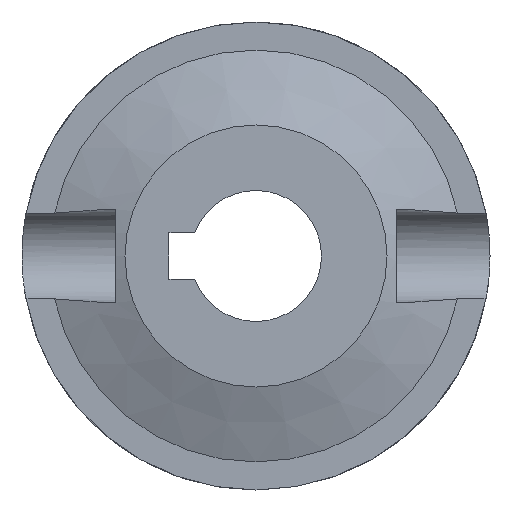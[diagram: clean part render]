
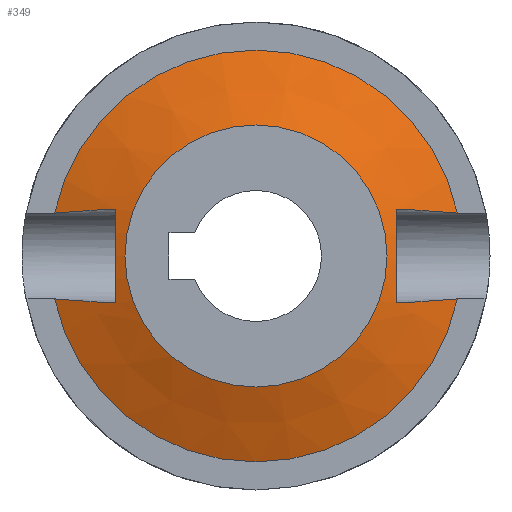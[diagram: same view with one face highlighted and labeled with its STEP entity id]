
A CAD part, front view. The second image highlights one B-rep face of the part: STEP entity #349.
In plain terms, the highlighted conical face has half-angle 69.444 degrees and reference radius 22.8 mm.
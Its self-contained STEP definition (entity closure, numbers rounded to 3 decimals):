
#349 = ADVANCED_FACE( '', ( #793, #794 ), #795, .T. );
#793 = FACE_OUTER_BOUND( '', #1352, .T. );
#794 = FACE_BOUND( '', #1353, .T. );
#795 = CONICAL_SURFACE( '', #1354, 22.8, 1.212 );
#1352 = EDGE_LOOP( '', ( #2136, #2137, #2138, #2139, #2140, #2141, #2142, #2143, #2144, #2145, #2146, #2147 ) );
#1353 = EDGE_LOOP( '', ( #2148 ) );
#1354 = AXIS2_PLACEMENT_3D( '', #2149, #2150, #2151 );
#2136 = ORIENTED_EDGE( '', *, *, #2731, .T. );
#2137 = ORIENTED_EDGE( '', *, *, #2621, .T. );
#2138 = ORIENTED_EDGE( '', *, *, #2732, .T. );
#2139 = ORIENTED_EDGE( '', *, *, #2711, .T. );
#2140 = ORIENTED_EDGE( '', *, *, #2501, .T. );
#2141 = ORIENTED_EDGE( '', *, *, #2537, .T. );
#2142 = ORIENTED_EDGE( '', *, *, #2733, .T. );
#2143 = ORIENTED_EDGE( '', *, *, #2616, .F. );
#2144 = ORIENTED_EDGE( '', *, *, #2718, .T. );
#2145 = ORIENTED_EDGE( '', *, *, #2533, .T. );
#2146 = ORIENTED_EDGE( '', *, *, #2689, .T. );
#2147 = ORIENTED_EDGE( '', *, *, #2714, .T. );
#2148 = ORIENTED_EDGE( '', *, *, #2588, .T. );
#2149 = CARTESIAN_POINT( '', ( 0., 0.3, 0. ) );
#2150 = DIRECTION( '', ( 0., 1., 0. ) );
#2151 = DIRECTION( '', ( -1., 0., 0. ) );
#2501 = EDGE_CURVE( '', #2903, #2901, #2904, .F. );
#2533 = EDGE_CURVE( '', #2952, #2950, #2953, .T. );
#2537 = EDGE_CURVE( '', #2901, #2958, #2960, .T. );
#2588 = EDGE_CURVE( '', #3034, #3034, #3035, .T. );
#2616 = EDGE_CURVE( '', #3075, #3077, #3078, .T. );
#2621 = EDGE_CURVE( '', #3084, #3085, #3086, .T. );
#2689 = EDGE_CURVE( '', #2950, #3184, #3186, .F. );
#2711 = EDGE_CURVE( '', #3212, #2903, #3213, .T. );
#2714 = EDGE_CURVE( '', #3184, #3215, #3217, .T. );
#2718 = EDGE_CURVE( '', #3075, #2952, #3220, .T. );
#2731 = EDGE_CURVE( '', #3215, #3084, #3238, .T. );
#2732 = EDGE_CURVE( '', #3085, #3212, #3239, .T. );
#2733 = EDGE_CURVE( '', #2958, #3077, #3240, .T. );
#2901 = VERTEX_POINT( '', #3716 );
#2903 = VERTEX_POINT( '', #3719 );
#2904 = CIRCLE( '', #3720, 22. );
#2950 = VERTEX_POINT( '', #3803 );
#2952 = VERTEX_POINT( '', #3806 );
#2953 = B_SPLINE_CURVE_WITH_KNOTS( '', 3, ( #3807, #3808, #3809, #3810, #3811, #3812 ), .UNSPECIFIED., .F., .F., ( 4, 2, 4 ), ( 0., 0.003, 0.006 ), .UNSPECIFIED. );
#2958 = VERTEX_POINT( '', #3818 );
#2960 = B_SPLINE_CURVE_WITH_KNOTS( '', 3, ( #3821, #3822, #3823, #3824, #3825, #3826 ), .UNSPECIFIED., .F., .F., ( 4, 2, 4 ), ( 0., 0.003, 0.006 ), .UNSPECIFIED. );
#3034 = VERTEX_POINT( '', #3921 );
#3035 = CIRCLE( '', #3922, 14. );
#3075 = VERTEX_POINT( '', #3969 );
#3077 = VERTEX_POINT( '', #3972 );
#3078 = B_SPLINE_CURVE_WITH_KNOTS( '', 3, ( #3973, #3974, #3975, #3976, #3977, #3978 ), .UNSPECIFIED., .F., .F., ( 4, 2, 4 ), ( -0.005, 0., 0.005 ), .UNSPECIFIED. );
#3084 = VERTEX_POINT( '', #3985 );
#3085 = VERTEX_POINT( '', #3986 );
#3086 = B_SPLINE_CURVE_WITH_KNOTS( '', 3, ( #3987, #3988, #3989, #3990, #3991, #3992 ), .UNSPECIFIED., .F., .F., ( 4, 2, 4 ), ( -0.005, 0., 0.005 ), .UNSPECIFIED. );
#3184 = VERTEX_POINT( '', #4197 );
#3186 = CIRCLE( '', #4200, 22. );
#3212 = VERTEX_POINT( '', #4263 );
#3213 = B_SPLINE_CURVE_WITH_KNOTS( '', 3, ( #4264, #4265, #4266, #4267, #4268, #4269 ), .UNSPECIFIED., .F., .F., ( 4, 2, 4 ), ( 0., 0.003, 0.006 ), .UNSPECIFIED. );
#3215 = VERTEX_POINT( '', #4272 );
#3217 = B_SPLINE_CURVE_WITH_KNOTS( '', 3, ( #4275, #4276, #4277, #4278, #4279, #4280 ), .UNSPECIFIED., .F., .F., ( 4, 2, 4 ), ( 0., 0.003, 0.006 ), .UNSPECIFIED. );
#3220 = B_SPLINE_CURVE_WITH_KNOTS( '', 3, ( #4283, #4284, #4285, #4286 ), .UNSPECIFIED., .F., .F., ( 4, 4 ), ( 0., 0.001 ), .UNSPECIFIED. );
#3238 = B_SPLINE_CURVE_WITH_KNOTS( '', 3, ( #4313, #4314, #4315, #4316 ), .UNSPECIFIED., .F., .F., ( 4, 4 ), ( 0., 0.001 ), .UNSPECIFIED. );
#3239 = B_SPLINE_CURVE_WITH_KNOTS( '', 3, ( #4317, #4318, #4319, #4320 ), .UNSPECIFIED., .F., .F., ( 4, 4 ), ( 0., 0.001 ), .UNSPECIFIED. );
#3240 = B_SPLINE_CURVE_WITH_KNOTS( '', 3, ( #4321, #4322, #4323, #4324 ), .UNSPECIFIED., .F., .F., ( 4, 4 ), ( 0., 0.001 ), .UNSPECIFIED. );
#3716 = CARTESIAN_POINT( '', ( -21.517, 0., 4.583 ) );
#3719 = CARTESIAN_POINT( '', ( 21.517, 0., 4.583 ) );
#3720 = AXIS2_PLACEMENT_3D( '', #4503, #4504, #4505 );
#3803 = CARTESIAN_POINT( '', ( -21.517, 0., -4.583 ) );
#3806 = CARTESIAN_POINT( '', ( -15.899, -2., -5. ) );
#3807 = CARTESIAN_POINT( '', ( -15.899, -2., -5. ) );
#3808 = CARTESIAN_POINT( '', ( -16.839, -1.664, -5. ) );
#3809 = CARTESIAN_POINT( '', ( -17.778, -1.329, -4.966 ) );
#3810 = CARTESIAN_POINT( '', ( -19.651, -0.662, -4.83 ) );
#3811 = CARTESIAN_POINT( '', ( -20.586, -0.331, -4.727 ) );
#3812 = CARTESIAN_POINT( '', ( -21.517, 0., -4.583 ) );
#3818 = CARTESIAN_POINT( '', ( -15.899, -2., 5. ) );
#3821 = CARTESIAN_POINT( '', ( -21.517, 0., 4.583 ) );
#3822 = CARTESIAN_POINT( '', ( -20.586, -0.331, 4.727 ) );
#3823 = CARTESIAN_POINT( '', ( -19.651, -0.662, 4.83 ) );
#3824 = CARTESIAN_POINT( '', ( -17.778, -1.329, 4.966 ) );
#3825 = CARTESIAN_POINT( '', ( -16.839, -1.664, 5. ) );
#3826 = CARTESIAN_POINT( '', ( -15.899, -2., 5. ) );
#3921 = CARTESIAN_POINT( '', ( -14., -3., 0. ) );
#3922 = AXIS2_PLACEMENT_3D( '', #4626, #4627, #4628 );
#3969 = CARTESIAN_POINT( '', ( -15., -2.321, -5. ) );
#3972 = CARTESIAN_POINT( '', ( -15., -2.321, 5. ) );
#3973 = CARTESIAN_POINT( '', ( -15., -2.321, -5. ) );
#3974 = CARTESIAN_POINT( '', ( -15., -2.518, -3.339 ) );
#3975 = CARTESIAN_POINT( '', ( -15., -2.625, -1.673 ) );
#3976 = CARTESIAN_POINT( '', ( -15., -2.625, 1.673 ) );
#3977 = CARTESIAN_POINT( '', ( -15., -2.518, 3.339 ) );
#3978 = CARTESIAN_POINT( '', ( -15., -2.321, 5. ) );
#3985 = CARTESIAN_POINT( '', ( 15., -2.321, -5. ) );
#3986 = CARTESIAN_POINT( '', ( 15., -2.321, 5. ) );
#3987 = CARTESIAN_POINT( '', ( 15., -2.321, -5. ) );
#3988 = CARTESIAN_POINT( '', ( 15., -2.518, -3.339 ) );
#3989 = CARTESIAN_POINT( '', ( 15., -2.625, -1.673 ) );
#3990 = CARTESIAN_POINT( '', ( 15., -2.625, 1.673 ) );
#3991 = CARTESIAN_POINT( '', ( 15., -2.518, 3.339 ) );
#3992 = CARTESIAN_POINT( '', ( 15., -2.321, 5. ) );
#4197 = CARTESIAN_POINT( '', ( 21.517, 0., -4.583 ) );
#4200 = AXIS2_PLACEMENT_3D( '', #4759, #4760, #4761 );
#4263 = CARTESIAN_POINT( '', ( 15.899, -2., 5. ) );
#4264 = CARTESIAN_POINT( '', ( 15.899, -2., 5. ) );
#4265 = CARTESIAN_POINT( '', ( 16.839, -1.664, 5. ) );
#4266 = CARTESIAN_POINT( '', ( 17.778, -1.329, 4.966 ) );
#4267 = CARTESIAN_POINT( '', ( 19.651, -0.662, 4.83 ) );
#4268 = CARTESIAN_POINT( '', ( 20.586, -0.331, 4.727 ) );
#4269 = CARTESIAN_POINT( '', ( 21.517, 0., 4.583 ) );
#4272 = CARTESIAN_POINT( '', ( 15.899, -2., -5. ) );
#4275 = CARTESIAN_POINT( '', ( 21.517, 0., -4.583 ) );
#4276 = CARTESIAN_POINT( '', ( 20.586, -0.331, -4.727 ) );
#4277 = CARTESIAN_POINT( '', ( 19.651, -0.662, -4.83 ) );
#4278 = CARTESIAN_POINT( '', ( 17.778, -1.329, -4.966 ) );
#4279 = CARTESIAN_POINT( '', ( 16.839, -1.664, -5. ) );
#4280 = CARTESIAN_POINT( '', ( 15.899, -2., -5. ) );
#4283 = CARTESIAN_POINT( '', ( -15., -2.321, -5. ) );
#4284 = CARTESIAN_POINT( '', ( -15.3, -2.214, -5. ) );
#4285 = CARTESIAN_POINT( '', ( -15.599, -2.107, -5. ) );
#4286 = CARTESIAN_POINT( '', ( -15.899, -2., -5. ) );
#4313 = CARTESIAN_POINT( '', ( 15.899, -2., -5. ) );
#4314 = CARTESIAN_POINT( '', ( 15.599, -2.107, -5. ) );
#4315 = CARTESIAN_POINT( '', ( 15.3, -2.214, -5. ) );
#4316 = CARTESIAN_POINT( '', ( 15., -2.321, -5. ) );
#4317 = CARTESIAN_POINT( '', ( 15., -2.321, 5. ) );
#4318 = CARTESIAN_POINT( '', ( 15.3, -2.214, 5. ) );
#4319 = CARTESIAN_POINT( '', ( 15.599, -2.107, 5. ) );
#4320 = CARTESIAN_POINT( '', ( 15.899, -2., 5. ) );
#4321 = CARTESIAN_POINT( '', ( -15.899, -2., 5. ) );
#4322 = CARTESIAN_POINT( '', ( -15.599, -2.107, 5. ) );
#4323 = CARTESIAN_POINT( '', ( -15.3, -2.214, 5. ) );
#4324 = CARTESIAN_POINT( '', ( -15., -2.321, 5. ) );
#4503 = CARTESIAN_POINT( '', ( 0., 0., 0. ) );
#4504 = DIRECTION( '', ( 0., 1., 0. ) );
#4505 = DIRECTION( '', ( -1., 0., 0. ) );
#4626 = CARTESIAN_POINT( '', ( 0., -3., 0. ) );
#4627 = DIRECTION( '', ( 0., 1., 0. ) );
#4628 = DIRECTION( '', ( -1., 0., 0. ) );
#4759 = CARTESIAN_POINT( '', ( 0., 0., 0. ) );
#4760 = DIRECTION( '', ( 0., 1., 0. ) );
#4761 = DIRECTION( '', ( -1., 0., 0. ) );
